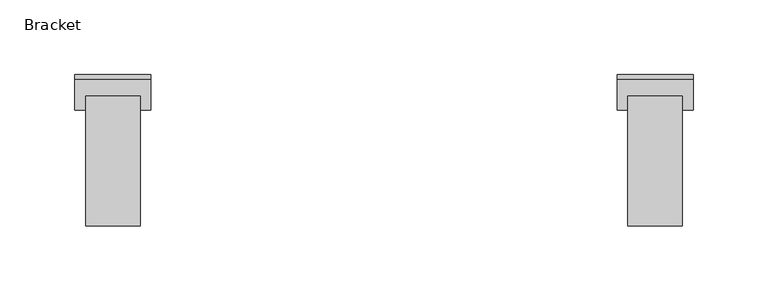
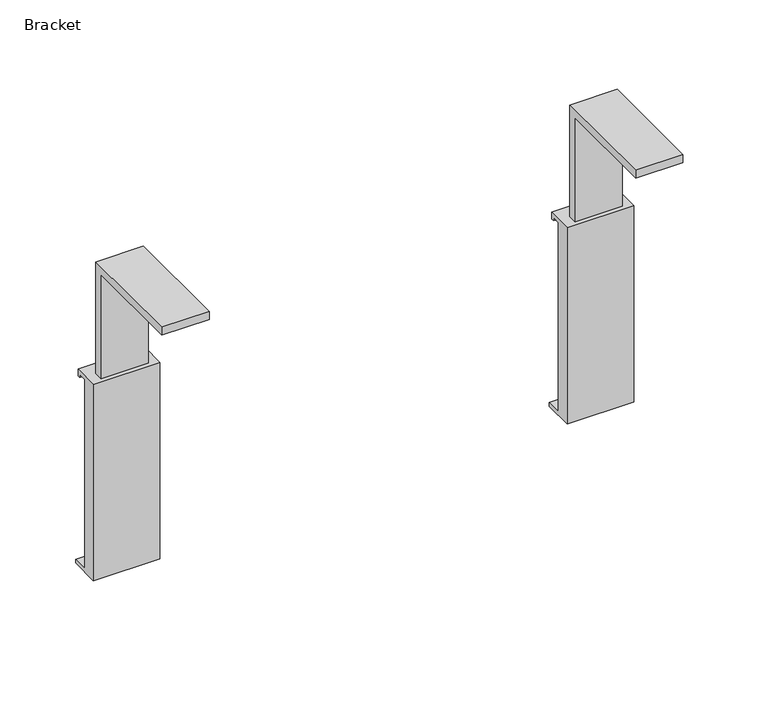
"""IFC4 building model written with IfcOpenShell, lengths in millimetres: furniture geometry, Steelcase - C Scape - Desking Support - Desk Tether Bracket : Bracket."""

from ifc_helpers import new_model, si_unit, frame, origin, place, context, project, spatial, polyline, outline, extrude, source, transform, mapped, element, save


def bracket_3e07cef7(model_context):
    return source(origin(), model_context, "Body", "SweptSolid", [
        extrude(outline(polyline([(-23.4950001, 612.597266), (-3.2276292, 612.597266), (-3.2276292, 607.1362696), (-5.5136294, 607.1362696), (-5.5136294, 609.6000002), (-11.8110001, 609.6000002), (-11.8110001, 456.857166), (0.0, 456.857166), (0.0, 453.847266), (-23.4950001, 453.847266), (-23.4950001, 612.597266)])), frame((361.95, 0.0, 0.0), z_axis=(1.0, 0.0, 0.0), x_axis=(0.0, 1.0, 0.0)), (0.0, 0.0, 1.0), 50.8),
        extrude(outline(polyline([(-101.2190001, 697.0268), (-101.2190001, 703.3768), (-14.2240001, 703.3768), (-14.2240001, 612.5972734), (-20.8280001, 612.5972734), (-20.8280001, 697.0268), (-101.2190001, 697.0268)])), frame((369.2779, 0.0, 0.0), z_axis=(1.0, 0.0, 0.0), x_axis=(0.0, 1.0, 0.0)), (0.0, 0.0, 1.0), 36.195),
        extrude(outline(polyline([(-23.4950001, 612.597266), (-3.2276292, 612.597266), (-3.2276292, 607.1362696), (-5.5136294, 607.1362696), (-5.5136294, 609.6000002), (-11.8110001, 609.6000002), (-11.8110001, 456.857166), (0.0, 456.857166), (0.0, 453.847266), (-23.4950001, 453.847266), (-23.4950001, 612.597266)])), frame((0.0, 0.0, 0.0), z_axis=(1.0, 0.0, 0.0), x_axis=(0.0, 1.0, 0.0)), (0.0, 0.0, 1.0), 50.8),
        extrude(outline(polyline([(-101.2190001, 697.0268), (-101.2190001, 703.3768), (-14.2240001, 703.3768), (-14.2240001, 612.5972734), (-20.8280001, 612.5972734), (-20.8280001, 697.0268), (-101.2190001, 697.0268)])), frame((7.3279, 0.0, 0.0), z_axis=(1.0, 0.0, 0.0), x_axis=(0.0, 1.0, 0.0)), (0.0, 0.0, 1.0), 36.195),
    ])


if __name__ == "__main__":
    model = new_model("IFC4")
    model_context = context("Model", 3, world=origin())
    ifc_project = project(units=[si_unit("LENGTHUNIT", "METRE", prefix="MILLI")], contexts=[model_context])
    site = spatial("IfcSite", under=ifc_project)
    building = spatial("IfcBuilding", under=site)
    placement = place(None, origin())
    bracket_shape = bracket_3e07cef7(model_context)
    element("IfcFurniture", 1, ObjectType="Steelcase - C Scape - Desking Support - Desk Tether Bracket : Bracket", at=placement, inside=building, context=model_context, shape_type="MappedRepresentation", body=[
        mapped(bracket_shape, transform((0.0, 0.0, 0.0), x_axis=(1.0, 0.0, 0.0), y_axis=(0.0, 1.0, 0.0), z_axis=(0.0, 0.0, 1.0))),
    ])
    save(model, "model.ifc")
